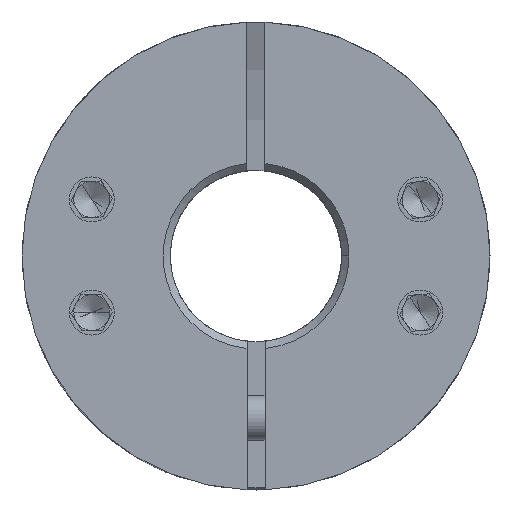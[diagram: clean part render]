
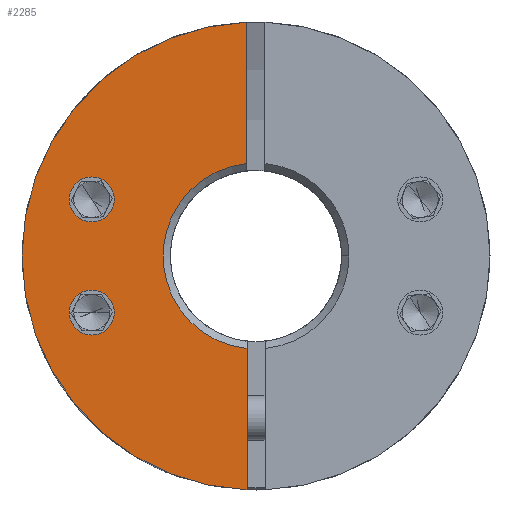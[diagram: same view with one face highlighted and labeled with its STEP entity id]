
A CAD part, front view. The second image highlights one B-rep face of the part: STEP entity #2285.
In plain terms, the highlighted planar face has unit normal (0, -1, 0).
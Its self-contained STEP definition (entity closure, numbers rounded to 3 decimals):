
#588 = DIRECTION ( 'NONE',  ( 1., 0., 0. ) ) ;
#671 = DIRECTION ( 'NONE',  ( 0., -1., 0. ) ) ;
#766 = EDGE_LOOP ( 'NONE', ( #5665, #10403 ) ) ;
#1055 = EDGE_LOOP ( 'NONE', ( #3430, #16732 ) ) ;
#1159 = VERTEX_POINT ( 'NONE', #15659 ) ;
#1796 = DIRECTION ( 'NONE',  ( 0., 1., 0. ) ) ;
#2097 = DIRECTION ( 'NONE',  ( 0., 1., 0. ) ) ;
#2285 = ADVANCED_FACE ( 'NONE', ( #9224, #11490, #15916 ), #12758, .T. ) ;
#2813 = DIRECTION ( 'NONE',  ( 1., 0., 0. ) ) ;
#2825 = CIRCLE ( 'NONE', #4297, 13. ) ;
#2981 = AXIS2_PLACEMENT_3D ( 'NONE', #14509, #5801, #9355 ) ;
#2992 = VERTEX_POINT ( 'NONE', #10955 ) ;
#3299 = ORIENTED_EDGE ( 'NONE', *, *, #13997, .F. ) ;
#3430 = ORIENTED_EDGE ( 'NONE', *, *, #11518, .T. ) ;
#3690 = AXIS2_PLACEMENT_3D ( 'NONE', #13469, #6545, #2813 ) ;
#3700 = CARTESIAN_POINT ( 'NONE',  ( 1.755, -26.289, 0. ) ) ;
#3819 = DIRECTION ( 'NONE',  ( 0., 0., -1. ) ) ;
#3829 = VERTEX_POINT ( 'NONE', #13492 ) ;
#4297 = AXIS2_PLACEMENT_3D ( 'NONE', #16865, #22134, #588 ) ;
#5202 = EDGE_CURVE ( 'NONE', #1159, #13891, #21551, .T. ) ;
#5287 = VERTEX_POINT ( 'NONE', #11209 ) ;
#5665 = ORIENTED_EDGE ( 'NONE', *, *, #16630, .T. ) ;
#5801 = DIRECTION ( 'NONE',  ( 0., 1., 0. ) ) ;
#5937 = VERTEX_POINT ( 'NONE', #16928 ) ;
#6184 = AXIS2_PLACEMENT_3D ( 'NONE', #3700, #17943, #15997 ) ;
#6251 = EDGE_CURVE ( 'NONE', #14317, #3829, #18452, .T. ) ;
#6545 = DIRECTION ( 'NONE',  ( 0., 1., 0. ) ) ;
#7263 = ORIENTED_EDGE ( 'NONE', *, *, #11938, .T. ) ;
#7688 = CARTESIAN_POINT ( 'NONE',  ( 1.755, -26.289, 0. ) ) ;
#9092 = CARTESIAN_POINT ( 'NONE',  ( -11.245, -26.289, 0. ) ) ;
#9102 = DIRECTION ( 'NONE',  ( 1., 0., 0. ) ) ;
#9224 = FACE_OUTER_BOUND ( 'NONE', #16343, .T. ) ;
#9283 = LINE ( 'NONE', #19931, #13742 ) ;
#9324 = DIRECTION ( 'NONE',  ( 0., 1., 0. ) ) ;
#9355 = DIRECTION ( 'NONE',  ( 1., 0., 0. ) ) ;
#10146 = AXIS2_PLACEMENT_3D ( 'NONE', #21981, #671, #20312 ) ;
#10173 = CIRCLE ( 'NONE', #11404, 1.25 ) ;
#10403 = ORIENTED_EDGE ( 'NONE', *, *, #6251, .T. ) ;
#10955 = CARTESIAN_POINT ( 'NONE',  ( 1.255, -26.289, -12.99 ) ) ;
#11056 = ORIENTED_EDGE ( 'NONE', *, *, #22136, .F. ) ;
#11069 = DIRECTION ( 'NONE',  ( 1., 0., 0. ) ) ;
#11209 = CARTESIAN_POINT ( 'NONE',  ( 1.255, -26.289, -5.138 ) ) ;
#11404 = AXIS2_PLACEMENT_3D ( 'NONE', #17902, #2097, #21536 ) ;
#11490 = FACE_BOUND ( 'NONE', #766, .T. ) ;
#11518 = EDGE_CURVE ( 'NONE', #13891, #1159, #17395, .T. ) ;
#11938 = EDGE_CURVE ( 'NONE', #12662, #2992, #2825, .T. ) ;
#12662 = VERTEX_POINT ( 'NONE', #9092 ) ;
#12758 = PLANE ( 'NONE',  #6184 ) ;
#12960 = CIRCLE ( 'NONE', #15390, 5.162 ) ;
#13469 = CARTESIAN_POINT ( 'NONE',  ( -7.369, -26.289, -3.142 ) ) ;
#13492 = CARTESIAN_POINT ( 'NONE',  ( -8.619, -26.289, 3.142 ) ) ;
#13646 = CARTESIAN_POINT ( 'NONE',  ( -8.619, -26.289, -3.142 ) ) ;
#13742 = VECTOR ( 'NONE', #3819, 1000. ) ;
#13891 = VERTEX_POINT ( 'NONE', #13646 ) ;
#13997 = EDGE_CURVE ( 'NONE', #5287, #2992, #22237, .T. ) ;
#14317 = VERTEX_POINT ( 'NONE', #18763 ) ;
#14509 = CARTESIAN_POINT ( 'NONE',  ( -7.369, -26.289, 3.142 ) ) ;
#15390 = AXIS2_PLACEMENT_3D ( 'NONE', #7688, #9324, #11069 ) ;
#15659 = CARTESIAN_POINT ( 'NONE',  ( -6.119, -26.289, -3.142 ) ) ;
#15892 = CARTESIAN_POINT ( 'NONE',  ( 1.255, -26.289, 5. ) ) ;
#15916 = FACE_BOUND ( 'NONE', #1055, .T. ) ;
#15997 = DIRECTION ( 'NONE',  ( 1., 0., 0. ) ) ;
#16343 = EDGE_LOOP ( 'NONE', ( #3299, #22103, #11056, #21727, #7263 ) ) ;
#16630 = EDGE_CURVE ( 'NONE', #3829, #14317, #10173, .T. ) ;
#16732 = ORIENTED_EDGE ( 'NONE', *, *, #5202, .T. ) ;
#16737 = EDGE_CURVE ( 'NONE', #5287, #5937, #12960, .T. ) ;
#16865 = CARTESIAN_POINT ( 'NONE',  ( 1.755, -26.289, 0. ) ) ;
#16928 = CARTESIAN_POINT ( 'NONE',  ( 1.255, -26.289, 5.138 ) ) ;
#17150 = CIRCLE ( 'NONE', #10146, 13. ) ;
#17395 = CIRCLE ( 'NONE', #3690, 1.25 ) ;
#17902 = CARTESIAN_POINT ( 'NONE',  ( -7.369, -26.289, 3.142 ) ) ;
#17943 = DIRECTION ( 'NONE',  ( 0., -1., 0. ) ) ;
#18452 = CIRCLE ( 'NONE', #2981, 1.25 ) ;
#18763 = CARTESIAN_POINT ( 'NONE',  ( -6.119, -26.289, 3.142 ) ) ;
#19512 = AXIS2_PLACEMENT_3D ( 'NONE', #23097, #1796, #9102 ) ;
#19931 = CARTESIAN_POINT ( 'NONE',  ( 1.255, -26.289, 5. ) ) ;
#20312 = DIRECTION ( 'NONE',  ( 1., 0., 0. ) ) ;
#20748 = EDGE_CURVE ( 'NONE', #21265, #12662, #17150, .T. ) ;
#21177 = DIRECTION ( 'NONE',  ( 0., 0., -1. ) ) ;
#21265 = VERTEX_POINT ( 'NONE', #22666 ) ;
#21536 = DIRECTION ( 'NONE',  ( 1., 0., 0. ) ) ;
#21551 = CIRCLE ( 'NONE', #19512, 1.25 ) ;
#21727 = ORIENTED_EDGE ( 'NONE', *, *, #20748, .T. ) ;
#21960 = VECTOR ( 'NONE', #21177, 1000. ) ;
#21981 = CARTESIAN_POINT ( 'NONE',  ( 1.755, -26.289, 0. ) ) ;
#22103 = ORIENTED_EDGE ( 'NONE', *, *, #16737, .T. ) ;
#22134 = DIRECTION ( 'NONE',  ( 0., -1., 0. ) ) ;
#22136 = EDGE_CURVE ( 'NONE', #21265, #5937, #9283, .T. ) ;
#22237 = LINE ( 'NONE', #15892, #21960 ) ;
#22666 = CARTESIAN_POINT ( 'NONE',  ( 1.255, -26.289, 12.99 ) ) ;
#23097 = CARTESIAN_POINT ( 'NONE',  ( -7.369, -26.289, -3.142 ) ) ;
